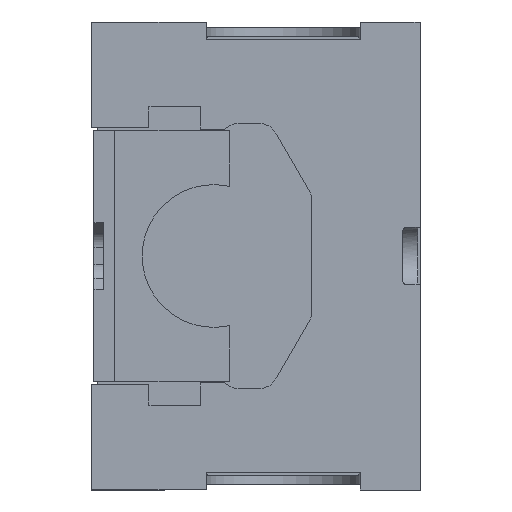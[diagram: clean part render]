
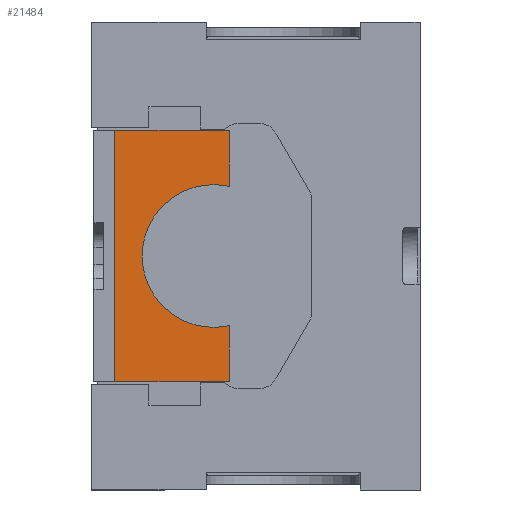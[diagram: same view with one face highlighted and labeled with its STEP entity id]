
A CAD part, left-side view. The second image highlights one B-rep face of the part: STEP entity #21484.
In plain terms, the highlighted planar face has unit normal (-1, 0, 0).
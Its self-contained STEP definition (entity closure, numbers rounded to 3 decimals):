
#651 = VERTEX_POINT ( 'NONE', #10898 ) ;
#4423 = ORIENTED_EDGE ( 'NONE', *, *, #100711, .T. ) ;
#5397 = CARTESIAN_POINT ( 'NONE',  ( 7., 71.93, -44. ) ) ;
#6926 = EDGE_CURVE ( 'NONE', #14861, #51802, #40978, .T. ) ;
#10898 = CARTESIAN_POINT ( 'NONE',  ( 7., 71.93, 44. ) ) ;
#14861 = VERTEX_POINT ( 'NONE', #77080 ) ;
#15682 = ORIENTED_EDGE ( 'NONE', *, *, #103287, .F. ) ;
#16152 = LINE ( 'NONE', #103250, #87371 ) ;
#18036 = VERTEX_POINT ( 'NONE', #32409 ) ;
#21484 = ADVANCED_FACE ( 'NONE', ( #90412 ), #77938, .F. ) ;
#28720 = VERTEX_POINT ( 'NONE', #73943 ) ;
#28957 = AXIS2_PLACEMENT_3D ( 'NONE', #105187, #51794, #114127 ) ;
#32409 = CARTESIAN_POINT ( 'NONE',  ( 7., 111.93, 44. ) ) ;
#33808 = DIRECTION ( 'NONE',  ( 1., 0., 0. ) ) ;
#34549 = EDGE_LOOP ( 'NONE', ( #46484, #69063, #15682, #45105, #4423, #85223 ) ) ;
#34593 = CARTESIAN_POINT ( 'NONE',  ( 7., 111.93, 44. ) ) ;
#37304 = DIRECTION ( 'NONE',  ( 0., 0., -1. ) ) ;
#38107 = VECTOR ( 'NONE', #37304, 1000. ) ;
#38861 = DIRECTION ( 'NONE',  ( 0., -1., 0. ) ) ;
#40978 = LINE ( 'NONE', #107930, #38107 ) ;
#43218 = CARTESIAN_POINT ( 'NONE',  ( 7., 111.93, 44. ) ) ;
#44596 = DIRECTION ( 'NONE',  ( 0., 0., -1. ) ) ;
#45105 = ORIENTED_EDGE ( 'NONE', *, *, #47128, .F. ) ;
#46484 = ORIENTED_EDGE ( 'NONE', *, *, #6926, .F. ) ;
#47128 = EDGE_CURVE ( 'NONE', #18036, #651, #68186, .T. ) ;
#49777 = DIRECTION ( 'NONE',  ( 0., 0., -1. ) ) ;
#51794 = DIRECTION ( 'NONE',  ( 1., 0., 0. ) ) ;
#51802 = VERTEX_POINT ( 'NONE', #5397 ) ;
#53620 = CARTESIAN_POINT ( 'NONE',  ( 7., 71.93, 44. ) ) ;
#54681 = VECTOR ( 'NONE', #70097, 1000. ) ;
#67432 = CARTESIAN_POINT ( 'NONE',  ( 7., 71.93, 24.394 ) ) ;
#68186 = LINE ( 'NONE', #34593, #54681 ) ;
#69063 = ORIENTED_EDGE ( 'NONE', *, *, #78977, .T. ) ;
#70097 = DIRECTION ( 'NONE',  ( 0., -1., 0. ) ) ;
#73943 = CARTESIAN_POINT ( 'NONE',  ( 7., 111.93, -44. ) ) ;
#77080 = CARTESIAN_POINT ( 'NONE',  ( 7., 71.93, -24.394 ) ) ;
#77361 = AXIS2_PLACEMENT_3D ( 'NONE', #43218, #33808, #105664 ) ;
#77938 = PLANE ( 'NONE',  #77361 ) ;
#78977 = EDGE_CURVE ( 'NONE', #14861, #107884, #79359, .T. ) ;
#79359 = CIRCLE ( 'NONE', #28957, 25. ) ;
#85152 = LINE ( 'NONE', #53620, #106186 ) ;
#85223 = ORIENTED_EDGE ( 'NONE', *, *, #95936, .T. ) ;
#87371 = VECTOR ( 'NONE', #49777, 1000. ) ;
#90412 = FACE_OUTER_BOUND ( 'NONE', #34549, .T. ) ;
#95936 = EDGE_CURVE ( 'NONE', #28720, #51802, #114129, .T. ) ;
#100711 = EDGE_CURVE ( 'NONE', #18036, #28720, #16152, .T. ) ;
#101363 = CARTESIAN_POINT ( 'NONE',  ( 7., 111.93, -44. ) ) ;
#103250 = CARTESIAN_POINT ( 'NONE',  ( 7., 111.93, 44. ) ) ;
#103287 = EDGE_CURVE ( 'NONE', #651, #107884, #85152, .T. ) ;
#105187 = CARTESIAN_POINT ( 'NONE',  ( 7., 77.4, 0. ) ) ;
#105664 = DIRECTION ( 'NONE',  ( 0., 1., 0. ) ) ;
#106186 = VECTOR ( 'NONE', #44596, 1000. ) ;
#107884 = VERTEX_POINT ( 'NONE', #67432 ) ;
#107930 = CARTESIAN_POINT ( 'NONE',  ( 7., 71.93, 44. ) ) ;
#111336 = VECTOR ( 'NONE', #38861, 1000. ) ;
#114127 = DIRECTION ( 'NONE',  ( 0., 1., 0. ) ) ;
#114129 = LINE ( 'NONE', #101363, #111336 ) ;
